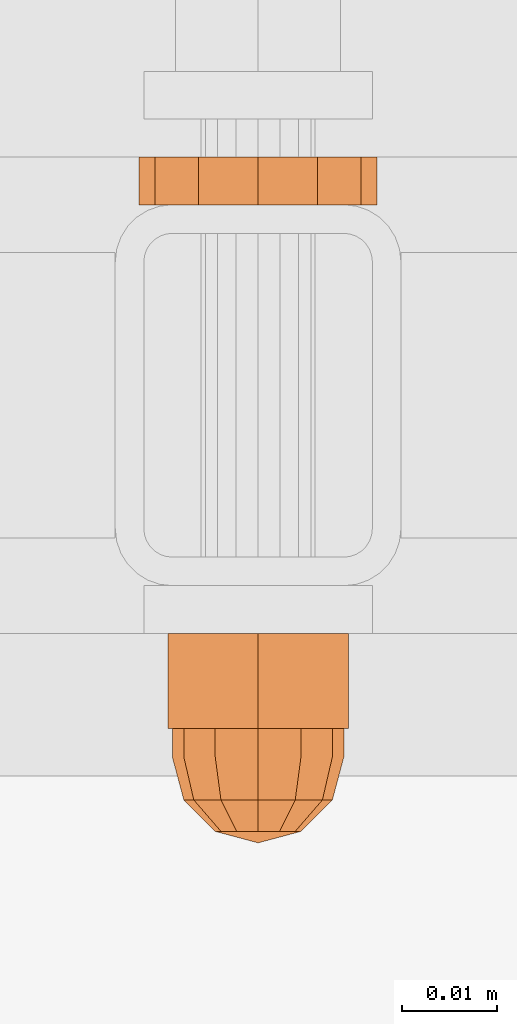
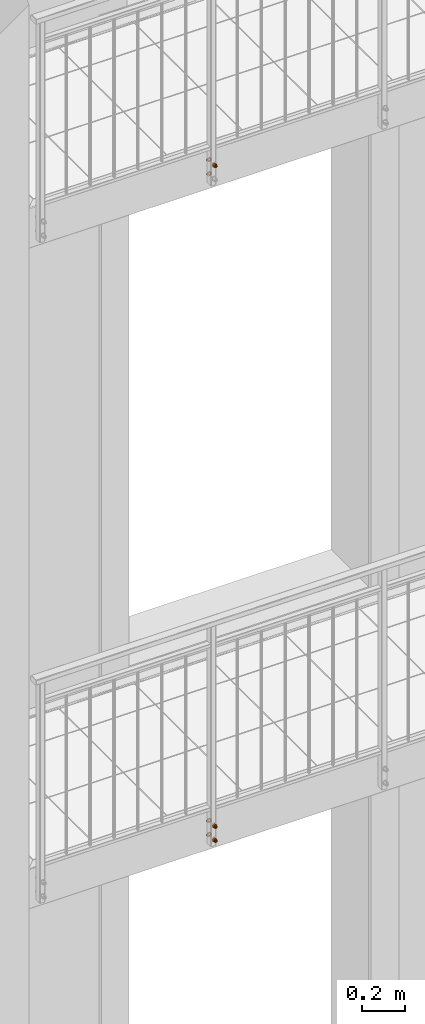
# One storey, part 118 of 162: 7 proxies.
"""IFC2X3 building model written with IfcOpenShell, lengths in millimetres."""

import ifcopenshell
import ifcopenshell.guid

model = None  # the IFC model being written
_history = None  # IfcOwnerHistory: only IFC2X3 demands one
_inside = {}  # id of a spatial element -> (the spatial element, [elements in it])
_under = {}  # id of a project, library or spatial element -> (it, [spatial elements below it])
_declared = {}  # id of a project -> (the project, [libraries it declares])
_typed = {}  # id of a type object -> (the type object, [elements of that type])
_made_of = {}  # id of a material, layer set ... -> (it, [elements and type objects made of it])


def new_model(schema):
    """Start an empty IFC model of exactly this schema.

    Asked for "IFC4X3", IfcOpenShell would pick the latest addendum, in which some entities
    have other attributes; the version numbers below select the first issue.
    IFC2X3 requires an IfcOwnerHistory on every rooted entity: one is made here for all.
    """
    global model, _history
    if schema == "IFC4X3":
        model = ifcopenshell.file(schema_version=(4, 3, 0, 0))
    else:
        model = ifcopenshell.file(schema=schema)
    _inside.clear()
    _under.clear()
    _declared.clear()
    _typed.clear()
    _made_of.clear()
    _history = None
    if model.schema == "IFC2X3":
        org = make("IfcOrganization", Name="unknown")
        user = make(
            "IfcPersonAndOrganization",
            ThePerson=make("IfcPerson", FamilyName="unknown"),
            TheOrganization=org,
        )
        app = make(
            "IfcApplication",
            ApplicationDeveloper=org,
            Version="unknown",
            ApplicationFullName="unknown",
            ApplicationIdentifier="unknown",
        )
        _history = make(
            "IfcOwnerHistory",
            OwningUser=user,
            OwningApplication=app,
            ChangeAction="ADDED",
            CreationDate=0,
        )
    return model


def make(cls, **values):
    """One entity of the class cls with the attributes given. An attribute that is None is left unset."""
    return model.create_entity(
        cls, **{name: value for name, value in values.items() if value is not None}
    )


def entity(cls, *values):
    """Any entity or typed value of the class cls, its attributes in the order of the schema. None: left unset."""
    e = model.create_entity(cls)
    for i, value in enumerate(values):
        if value is not None:
            e[i] = value
    return e


def rooted(cls, **values):
    """An entity with a GlobalId (a new one), such as an element, a storey or a relation."""
    return make(cls, GlobalId=ifcopenshell.guid.new(), OwnerHistory=_history, **values)


def si_unit(unit_type, name, prefix=None):
    """IfcSIUnit, for example si_unit("LENGTHUNIT", "METRE", prefix="MILLI")."""
    return make("IfcSIUnit", UnitType=unit_type, Prefix=prefix, Name=name)


def converted_unit(unit_type, name, factor, base, dimensions=None, offset=None):
    """IfcConversionBasedUnit, such as the inch: factor (a typed value) times the base unit."""
    return make(
        "IfcConversionBasedUnit"
        if offset is None
        else "IfcConversionBasedUnitWithOffset",
        ConversionOffset=offset,
        Dimensions=None
        if dimensions is None
        else entity("IfcDimensionalExponents", *dimensions),
        UnitType=unit_type,
        Name=name,
        ConversionFactor=make(
            "IfcMeasureWithUnit", ValueComponent=factor, UnitComponent=base
        ),
    )


def assignment(units):
    """IfcUnitAssignment: the units of a project."""
    return None if units is None else make("IfcUnitAssignment", Units=units)


def point(xyz):
    """IfcCartesianPoint."""
    return None if xyz is None else make("IfcCartesianPoint", Coordinates=xyz)


def direction(xyz):
    """IfcDirection."""
    return None if xyz is None else make("IfcDirection", DirectionRatios=xyz)


def frame(location, z_axis=None, x_axis=None):
    """IfcAxis2Placement3D, a coordinate frame: its origin and axes. An axis left out is left unset."""
    return make(
        "IfcAxis2Placement3D",
        Location=point(location),
        Axis=direction(z_axis),
        RefDirection=direction(x_axis),
    )


def origin_with_axes():
    """The frame at (0, 0, 0) with the z axis (0, 0, 1) and the x axis (1, 0, 0) written out."""
    return frame((0.0, 0.0, 0.0), z_axis=(0.0, 0.0, 1.0), x_axis=(1.0, 0.0, 0.0))


def place(relative_to, where):
    """IfcLocalPlacement: puts the frame where relative to a parent placement (None: the world)."""
    return make(
        "IfcLocalPlacement", PlacementRelTo=relative_to, RelativePlacement=where
    )


def context(
    kind, dimensions, precision=None, world=None, true_north=None, identifier=None
):
    """IfcGeometricRepresentationContext, for example the 3D "Model" context."""
    return make(
        "IfcGeometricRepresentationContext",
        ContextIdentifier=identifier,
        ContextType=kind,
        CoordinateSpaceDimension=dimensions,
        Precision=precision,
        WorldCoordinateSystem=world,
        TrueNorth=true_north,
    )


def project(units=None, contexts=None):
    """IfcProject with its units and contexts."""
    return rooted(
        "IfcProject",
        Name="project",
        RepresentationContexts=contexts,
        UnitsInContext=assignment(units),
    )


def spatial(cls, under=None, at=None, **own):
    """A site, building, storey or space (cls), placed at a placement, below another one or the project."""
    s = rooted(cls, ObjectPlacement=at, **own)
    if under is not None:
        _under.setdefault(under.id(), (under, []))[1].append(s)
    return s


def faces_of(points, faces, orient=None, outer=None):
    """IfcFace entities. A face is a list of loops; a loop is a list of indices into points, from 0.

    orient and outer hold one flag for each loop. By default every Orientation is true, the
    first loop of a face is its IfcFaceOuterBound and the others are IfcFaceBound.
    """
    made = []
    for i, loops in enumerate(faces):
        bounds = []
        for j, loop in enumerate(loops):
            is_outer = j == 0 if outer is None else outer[i][j]
            bounds.append(
                make(
                    "IfcFaceOuterBound" if is_outer else "IfcFaceBound",
                    Bound=make("IfcPolyLoop", Polygon=[points[k] for k in loop]),
                    Orientation=True if orient is None else orient[i][j],
                )
            )
        made.append(make("IfcFace", Bounds=bounds))
    return made


def faceted_brep(points, faces, orient=None, outer=None, voids=None):
    """IfcFacetedBrep: a solid bounded by flat faces; with voids (closed shells), ...WithVoids."""
    shared = [point(p) for p in points]
    hull = make("IfcClosedShell", CfsFaces=faces_of(shared, faces, orient, outer))
    if voids is None:
        return make("IfcFacetedBrep", Outer=hull)
    return make(
        "IfcFacetedBrepWithVoids",
        Outer=hull,
        Voids=[
            make(cls, CfsFaces=faces_of(shared, fs, o, b)) for cls, fs, o, b in voids
        ],
    )


def shape(context_of_items, identifier, shape_type, items):
    """IfcShapeRepresentation: the items that make up one representation, for example the "Body"."""
    return make(
        "IfcShapeRepresentation",
        ContextOfItems=context_of_items,
        RepresentationIdentifier=identifier,
        RepresentationType=shape_type,
        Items=items,
    )


def material(Name=None, Category=None):
    """IfcMaterial."""
    return make("IfcMaterial", Name=Name, Category=Category)


def made_of(thing, what):
    """Note that an element or type object is made of a material, layer set ...; save() writes the relation."""
    if what is not None:
        _made_of.setdefault(what.id(), (what, []))[1].append(thing)
    return thing


def element(
    cls,
    number,
    at=None,
    inside=None,
    cuts=None,
    type_object=None,
    material=None,
    context=None,
    identifier="Body",
    shape_type=None,
    held_by="IfcProductDefinitionShape",
    body=None,
    shapes=None,
    **own,
):
    """One element of the class cls, such as IfcWall. Its Tag is "e" and its number.

    at: its placement. inside: the storey or other place that contains it. cuts: it is an
    opening in that element (IfcRelVoidsElement). A single representation is given by context,
    identifier, shape_type and body (its items); several are given by shapes. held_by: the class
    of the entity that holds the representations. save() writes the other relations.
    """
    e = rooted(cls, Tag="e%d" % number, ObjectPlacement=at, **own)
    if body is not None:
        shapes = [shape(context, identifier, shape_type, body)]
    if shapes is not None:
        e.Representation = make(held_by, Representations=shapes)
    if inside is not None:
        _inside.setdefault(inside.id(), (inside, []))[1].append(e)
    if cuts is not None:
        rooted(
            "IfcRelVoidsElement", RelatingBuildingElement=cuts, RelatedOpeningElement=e
        )
    if type_object is not None:
        _typed.setdefault(type_object.id(), (type_object, []))[1].append(e)
    return made_of(e, material)


def aggregate(whole, parts):
    """IfcRelAggregates: a whole, such as a stair, and the parts it consists of."""
    return rooted("IfcRelAggregates", RelatingObject=whole, RelatedObjects=parts)


def save(model, path):
    """Write the relations noted so far, then the file.

    IfcRelAggregates (storeys below a building ...), IfcRelContainedInSpatialStructure (elements
    in a storey), IfcRelDefinesByType, IfcRelAssociatesMaterial and IfcRelDeclares: one each for
    every whole, place, type object, material and project.
    """
    for whole, parts in _under.values():
        aggregate(whole, parts)
    for where, things in _inside.values():
        rooted(
            "IfcRelContainedInSpatialStructure",
            RelatedElements=things,
            RelatingStructure=where,
        )
    for kind, things in _typed.values():
        rooted("IfcRelDefinesByType", RelatedObjects=things, RelatingType=kind)
    for what, things in _made_of.values():
        rooted("IfcRelAssociatesMaterial", RelatedObjects=things, RelatingMaterial=what)
    for by, libraries in _declared.values():
        rooted("IfcRelDeclares", RelatingContext=by, RelatedDefinitions=libraries)
    model.write(path)


model = new_model("IFC2X3")

# Units and contexts
model_context = context("Model", 3, precision=1e-09, world=origin_with_axes())
ifc_project = project(units=[si_unit("LENGTHUNIT", "METRE", prefix="MILLI"), si_unit("AREAUNIT", "SQUARE_METRE"), si_unit("VOLUMEUNIT", "CUBIC_METRE"), converted_unit("PLANEANGLEUNIT", "DEGREE", entity("IfcPlaneAngleMeasure", 0.01745329), si_unit("PLANEANGLEUNIT", "RADIAN"), dimensions=[0, 0, 0, 0, 0, 0, 0])], contexts=[model_context])

# Site, building, storey
site_placement = place(None, origin_with_axes())
site = spatial("IfcSite", under=ifc_project, at=site_placement, Name="Hermannstra?e 1a, 60318 Frankfurt", CompositionType="ELEMENT")
building_placement = place(site_placement, origin_with_axes())
building = spatial("IfcBuilding", under=site, at=building_placement, Name="Struktur 1", CompositionType="ELEMENT")
storey_placement = place(building_placement, origin_with_axes())
storey = spatial("IfcBuildingStorey", under=building, at=storey_placement, Name="Default Storey", CompositionType="ELEMENT", Elevation=0.0)

# Proxies
ifc_material = material(Name="Kein")
proxy_1_placement = place(None, origin_with_axes())
element("IfcBuildingElementProxy", 1, at=proxy_1_placement, inside=storey, material=ifc_material, ObjectType="-", context=model_context, shape_type="Brep", body=[
    faceted_brep([(3512.484047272, 1535.609373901, 11333.749), (3517.05936482, 1535.609373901, 11329.173682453), (3523.30936482, 1535.609373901, 11327.499), (3529.55936482, 1535.609373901, 11329.173682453), (3534.134682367, 1535.609373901, 11333.749), (3535.80936482, 1535.609373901, 11339.999), (3534.134682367, 1535.609373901, 11346.249), (3529.55936482, 1535.609373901, 11350.824317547), (3523.30936482, 1535.609373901, 11352.499), (3517.05936482, 1535.609373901, 11350.824317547), (3512.484047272, 1535.609373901, 11346.249), (3510.80936482, 1535.609373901, 11339.999), (3523.30936482, 1535.609373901, 11333.999), (3520.30936482, 1535.609373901, 11334.802847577), (3518.113212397, 1535.609373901, 11336.999), (3517.30936482, 1535.609373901, 11339.999), (3518.113212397, 1535.609373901, 11342.999), (3520.30936482, 1535.609373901, 11345.195152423), (3523.30936482, 1535.609373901, 11345.999), (3526.30936482, 1535.609373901, 11345.195152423), (3528.505517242, 1535.609373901, 11342.999), (3529.30936482, 1535.609373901, 11339.999), (3528.505517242, 1535.609373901, 11336.999), (3526.30936482, 1535.609373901, 11334.802847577), (3512.484047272, 1540.609373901, 11333.749), (3517.05936482, 1540.609373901, 11329.173682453), (3510.80936482, 1540.609373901, 11339.999), (3512.484047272, 1540.609373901, 11346.249), (3517.05936482, 1540.609373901, 11350.824317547), (3523.30936482, 1540.609373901, 11352.499), (3529.55936482, 1540.609373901, 11350.824317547), (3534.134682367, 1540.609373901, 11346.249), (3535.80936482, 1540.609373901, 11339.999), (3534.134682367, 1540.609373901, 11333.749), (3529.55936482, 1540.609373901, 11329.173682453), (3523.30936482, 1540.609373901, 11327.499), (3518.113212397, 1540.609373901, 11342.999), (3517.30936482, 1540.609373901, 11339.999), (3518.113212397, 1540.609373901, 11336.999), (3520.30936482, 1540.609373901, 11334.802847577), (3523.30936482, 1540.609373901, 11333.999), (3526.30936482, 1540.609373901, 11334.802847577), (3528.505517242, 1540.609373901, 11336.999), (3529.30936482, 1540.609373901, 11339.999), (3528.505517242, 1540.609373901, 11342.999), (3526.30936482, 1540.609373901, 11345.195152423), (3523.30936482, 1540.609373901, 11345.999), (3520.30936482, 1540.609373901, 11345.195152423)], [[[0, 1, 2, 3, 4, 5, 6, 7, 8, 9, 10, 11], [12, 13, 14, 15, 16, 17, 18, 19, 20, 21, 22, 23]], [[0, 24, 25, 1]], [[24, 26, 27, 28, 29, 30, 31, 32, 33, 34, 35, 25], [36, 37, 38, 39, 40, 41, 42, 43, 44, 45, 46, 47]], [[38, 14, 13, 39]], [[24, 0, 11, 26]], [[14, 38, 37, 15]], [[39, 13, 12, 40]], [[1, 25, 35, 2]], [[26, 11, 10, 27]], [[15, 37, 36, 16]], [[40, 12, 23, 41]], [[2, 35, 34, 3]], [[27, 10, 9, 28]], [[16, 36, 47, 17]], [[22, 42, 41, 23]], [[3, 34, 33, 4]], [[42, 22, 21, 43]], [[28, 9, 8, 29]], [[17, 47, 46, 18]], [[20, 44, 43, 21]], [[4, 33, 32, 5]], [[45, 19, 18, 46]], [[44, 20, 19, 45]], [[29, 8, 7, 30]], [[5, 32, 31, 6]], [[30, 7, 6, 31]]]),
])
proxy_2_placement = place(None, origin_with_axes())
element("IfcBuildingElementProxy", 2, at=proxy_2_placement, inside=storey, material=ifc_material, ObjectType="-", context=model_context, shape_type="Brep", body=[
    faceted_brep([(3512.484047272, 1535.609373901, 11413.749), (3517.05936482, 1535.609373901, 11409.173682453), (3523.30936482, 1535.609373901, 11407.499), (3529.55936482, 1535.609373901, 11409.173682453), (3534.134682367, 1535.609373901, 11413.749), (3535.80936482, 1535.609373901, 11419.999), (3534.134682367, 1535.609373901, 11426.249), (3529.55936482, 1535.609373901, 11430.824317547), (3523.30936482, 1535.609373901, 11432.499), (3517.05936482, 1535.609373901, 11430.824317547), (3512.484047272, 1535.609373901, 11426.249), (3510.80936482, 1535.609373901, 11419.999), (3523.30936482, 1535.609373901, 11413.999), (3520.30936482, 1535.609373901, 11414.802847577), (3518.113212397, 1535.609373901, 11416.999), (3517.30936482, 1535.609373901, 11419.999), (3518.113212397, 1535.609373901, 11422.999), (3520.30936482, 1535.609373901, 11425.195152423), (3523.30936482, 1535.609373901, 11425.999), (3526.30936482, 1535.609373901, 11425.195152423), (3528.505517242, 1535.609373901, 11422.999), (3529.30936482, 1535.609373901, 11419.999), (3528.505517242, 1535.609373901, 11416.999), (3526.30936482, 1535.609373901, 11414.802847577), (3512.484047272, 1540.609373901, 11413.749), (3517.05936482, 1540.609373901, 11409.173682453), (3510.80936482, 1540.609373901, 11419.999), (3512.484047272, 1540.609373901, 11426.249), (3517.05936482, 1540.609373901, 11430.824317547), (3523.30936482, 1540.609373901, 11432.499), (3529.55936482, 1540.609373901, 11430.824317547), (3534.134682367, 1540.609373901, 11426.249), (3535.80936482, 1540.609373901, 11419.999), (3534.134682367, 1540.609373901, 11413.749), (3529.55936482, 1540.609373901, 11409.173682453), (3523.30936482, 1540.609373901, 11407.499), (3518.113212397, 1540.609373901, 11422.999), (3517.30936482, 1540.609373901, 11419.999), (3518.113212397, 1540.609373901, 11416.999), (3520.30936482, 1540.609373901, 11414.802847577), (3523.30936482, 1540.609373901, 11413.999), (3526.30936482, 1540.609373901, 11414.802847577), (3528.505517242, 1540.609373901, 11416.999), (3529.30936482, 1540.609373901, 11419.999), (3528.505517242, 1540.609373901, 11422.999), (3526.30936482, 1540.609373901, 11425.195152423), (3523.30936482, 1540.609373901, 11425.999), (3520.30936482, 1540.609373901, 11425.195152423)], [[[0, 1, 2, 3, 4, 5, 6, 7, 8, 9, 10, 11], [12, 13, 14, 15, 16, 17, 18, 19, 20, 21, 22, 23]], [[0, 24, 25, 1]], [[24, 26, 27, 28, 29, 30, 31, 32, 33, 34, 35, 25], [36, 37, 38, 39, 40, 41, 42, 43, 44, 45, 46, 47]], [[38, 14, 13, 39]], [[24, 0, 11, 26]], [[14, 38, 37, 15]], [[39, 13, 12, 40]], [[1, 25, 35, 2]], [[26, 11, 10, 27]], [[15, 37, 36, 16]], [[40, 12, 23, 41]], [[2, 35, 34, 3]], [[27, 10, 9, 28]], [[16, 36, 47, 17]], [[22, 42, 41, 23]], [[3, 34, 33, 4]], [[42, 22, 21, 43]], [[28, 9, 8, 29]], [[17, 47, 46, 18]], [[20, 44, 43, 21]], [[4, 33, 32, 5]], [[45, 19, 18, 46]], [[44, 20, 19, 45]], [[29, 8, 7, 30]], [[5, 32, 31, 6]], [[30, 7, 6, 31]]]),
])
proxy_3_placement = place(None, origin_with_axes())
element("IfcBuildingElementProxy", 3, at=proxy_3_placement, inside=storey, material=ifc_material, ObjectType="-", context=model_context, shape_type="Brep", body=[
    faceted_brep([(3517.30936482, 1490.609373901, 11419.999), (3517.30936482, 1480.609373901, 11419.999), (3518.113212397, 1480.609373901, 11416.999), (3518.113212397, 1490.609373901, 11416.999), (3520.30936482, 1480.609373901, 11414.802847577), (3520.30936482, 1490.609373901, 11414.802847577), (3518.113212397, 1490.609373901, 11422.999), (3518.113212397, 1480.609373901, 11422.999), (3513.829495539, 1490.609373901, 11425.472205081), (3523.30936482, 1490.609373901, 11430.945410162), (3532.7892341, 1490.609373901, 11425.472205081), (3532.7892341, 1490.609373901, 11414.525794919), (3523.30936482, 1490.609373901, 11409.052589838), (3513.829495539, 1490.609373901, 11414.525794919), (3520.30936482, 1490.609373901, 11425.195152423), (3523.30936482, 1490.609373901, 11413.999), (3526.30936482, 1490.609373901, 11414.802847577), (3528.505517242, 1490.609373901, 11416.999), (3529.30936482, 1490.609373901, 11419.999), (3528.505517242, 1490.609373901, 11422.999), (3526.30936482, 1490.609373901, 11425.195152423), (3523.30936482, 1490.609373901, 11425.999), (3523.30936482, 1480.609373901, 11430.945410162), (3513.829495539, 1480.609373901, 11425.472205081), (3513.829495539, 1480.609373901, 11414.525794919), (3523.30936482, 1480.609373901, 11409.052589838), (3532.7892341, 1480.609373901, 11414.525794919), (3532.7892341, 1480.609373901, 11425.472205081), (3520.30936482, 1480.609373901, 11425.195152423), (3523.30936482, 1480.609373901, 11425.999), (3526.30936482, 1480.609373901, 11425.195152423), (3528.505517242, 1480.609373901, 11422.999), (3529.30936482, 1480.609373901, 11419.999), (3528.505517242, 1480.609373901, 11416.999), (3526.30936482, 1480.609373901, 11414.802847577), (3523.30936482, 1480.609373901, 11413.999)], [[[0, 1, 2, 3]], [[3, 2, 4, 5]], [[1, 0, 6, 7]], [[8, 9, 10, 11, 12, 13], [14, 6, 0, 3, 5, 15, 16, 17, 18, 19, 20, 21]], [[22, 23, 24, 25, 26, 27], [1, 7, 28, 29, 30, 31, 32, 33, 34, 35, 4, 2]], [[7, 6, 14, 28]], [[24, 23, 8, 13]], [[5, 4, 35, 15]], [[13, 12, 25, 24]], [[28, 14, 21, 29]], [[23, 22, 9, 8]], [[15, 35, 34, 16]], [[12, 11, 26, 25]], [[29, 21, 20, 30]], [[22, 27, 10, 9]], [[16, 34, 33, 17]], [[27, 26, 11, 10]], [[30, 20, 19, 31]], [[17, 33, 32, 18]], [[31, 19, 18, 32]]]),
    faceted_brep([(3523.30936482, 1480.609373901, 11428.999), (3523.30936482, 1477.609373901, 11428.999), (3527.80936482, 1477.609373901, 11427.793228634), (3527.80936482, 1480.609373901, 11427.793228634), (3518.80936482, 1480.609373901, 11427.793228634), (3518.80936482, 1477.609373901, 11427.793228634), (3515.515136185, 1477.609373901, 11415.499), (3518.80936482, 1477.609373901, 11412.204771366), (3523.30936482, 1477.609373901, 11410.999), (3527.80936482, 1477.609373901, 11412.204771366), (3531.103593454, 1477.609373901, 11415.499), (3532.30936482, 1477.609373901, 11419.999), (3531.103593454, 1477.609373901, 11424.499), (3515.515136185, 1477.609373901, 11424.499), (3514.30936482, 1477.609373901, 11419.999), (3531.103593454, 1480.609373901, 11415.499), (3527.80936482, 1480.609373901, 11412.204771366), (3523.30936482, 1480.609373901, 11410.999), (3518.80936482, 1480.609373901, 11412.204771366), (3515.515136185, 1480.609373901, 11415.499), (3514.30936482, 1480.609373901, 11419.999), (3515.515136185, 1480.609373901, 11424.499), (3531.103593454, 1480.609373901, 11424.499), (3532.30936482, 1480.609373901, 11419.999)], [[[0, 1, 2, 3]], [[1, 0, 4, 5]], [[6, 7, 8, 9, 10, 11, 12, 2, 1, 5, 13, 14]], [[15, 16, 17, 18, 19, 20, 21, 4, 0, 3, 22, 23]], [[3, 2, 12, 22]], [[5, 4, 21, 13]], [[22, 12, 11, 23]], [[13, 21, 20, 14]], [[7, 18, 17, 8]], [[19, 6, 14, 20]], [[18, 7, 6, 19]], [[23, 11, 10, 15]], [[8, 17, 16, 9]], [[15, 10, 9, 16]]]),
    faceted_brep([(3515.515136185, 1477.609373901, 11424.499), (3516.55936482, 1473.109373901, 11423.896114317), (3519.412250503, 1473.109373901, 11426.749), (3518.80936482, 1477.609373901, 11427.793228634), (3531.103593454, 1477.609373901, 11415.499), (3527.80936482, 1477.609373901, 11412.204771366), (3523.30936482, 1477.609373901, 11410.999), (3518.80936482, 1477.609373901, 11412.204771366), (3515.515136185, 1477.609373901, 11415.499), (3514.30936482, 1477.609373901, 11419.999), (3523.30936482, 1477.609373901, 11428.999), (3527.80936482, 1477.609373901, 11427.793228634), (3531.103593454, 1477.609373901, 11424.499), (3532.30936482, 1477.609373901, 11419.999), (3523.30936482, 1473.109373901, 11427.793228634), (3515.515136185, 1473.109373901, 11419.999), (3518.80936482, 1469.815145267, 11419.999), (3519.412250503, 1469.815145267, 11422.249), (3527.206479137, 1473.109373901, 11426.749), (3521.05936482, 1469.815145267, 11423.896114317), (3516.55936482, 1473.109373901, 11416.101885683), (3519.412250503, 1469.815145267, 11417.749), (3523.30936482, 1469.815145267, 11424.499), (3523.30936482, 1468.609373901, 11419.999), (3519.412250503, 1473.109373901, 11413.249), (3521.05936482, 1469.815145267, 11416.101885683), (3523.30936482, 1473.109373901, 11412.204771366), (3530.05936482, 1473.109373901, 11423.896114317), (3525.55936482, 1469.815145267, 11423.896114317), (3523.30936482, 1469.815145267, 11415.499), (3527.206479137, 1473.109373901, 11413.249), (3525.55936482, 1469.815145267, 11416.101885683), (3531.103593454, 1473.109373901, 11419.999), (3527.206479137, 1469.815145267, 11422.249), (3530.05936482, 1473.109373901, 11416.101885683), (3527.206479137, 1469.815145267, 11417.749), (3527.80936482, 1469.815145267, 11419.999)], [[[0, 1, 2, 3]], [[4, 5, 6, 7, 8, 9, 0, 3, 10, 11, 12, 13]], [[3, 2, 14, 10]], [[15, 16, 17, 1]], [[1, 0, 9, 15]], [[10, 14, 18, 11]], [[1, 17, 19, 2]], [[16, 15, 20, 21]], [[2, 19, 22, 14]], [[23, 17, 16]], [[24, 25, 21, 20]], [[23, 16, 21]], [[24, 7, 6, 26]], [[20, 8, 7, 24]], [[15, 9, 8, 20]], [[11, 18, 27, 12]], [[14, 22, 28, 18]], [[23, 19, 17]], [[26, 29, 25, 24]], [[23, 21, 25]], [[23, 22, 19]], [[26, 6, 5, 30]], [[29, 26, 30, 31]], [[23, 25, 29]], [[12, 27, 32, 13]], [[18, 28, 33, 27]], [[23, 28, 22]], [[23, 29, 31]], [[23, 33, 28]], [[30, 5, 4, 34]], [[31, 30, 34, 35]], [[23, 31, 35]], [[13, 32, 34, 4]], [[27, 33, 36, 32]], [[23, 36, 33]], [[23, 35, 36]], [[35, 34, 32, 36]]]),
])
proxy_4_placement = place(None, origin_with_axes())
element("IfcBuildingElementProxy", 4, at=proxy_4_placement, inside=storey, material=ifc_material, ObjectType="-", context=model_context, shape_type="Brep", body=[
    faceted_brep([(3517.30936482, 1490.609373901, 11339.999), (3517.30936482, 1480.609373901, 11339.999), (3518.113212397, 1480.609373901, 11336.999), (3518.113212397, 1490.609373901, 11336.999), (3520.30936482, 1480.609373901, 11334.802847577), (3520.30936482, 1490.609373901, 11334.802847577), (3518.113212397, 1490.609373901, 11342.999), (3518.113212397, 1480.609373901, 11342.999), (3513.829495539, 1490.609373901, 11345.472205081), (3523.30936482, 1490.609373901, 11350.945410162), (3532.7892341, 1490.609373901, 11345.472205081), (3532.7892341, 1490.609373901, 11334.525794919), (3523.30936482, 1490.609373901, 11329.052589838), (3513.829495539, 1490.609373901, 11334.525794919), (3520.30936482, 1490.609373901, 11345.195152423), (3523.30936482, 1490.609373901, 11333.999), (3526.30936482, 1490.609373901, 11334.802847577), (3528.505517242, 1490.609373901, 11336.999), (3529.30936482, 1490.609373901, 11339.999), (3528.505517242, 1490.609373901, 11342.999), (3526.30936482, 1490.609373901, 11345.195152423), (3523.30936482, 1490.609373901, 11345.999), (3523.30936482, 1480.609373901, 11350.945410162), (3513.829495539, 1480.609373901, 11345.472205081), (3513.829495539, 1480.609373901, 11334.525794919), (3523.30936482, 1480.609373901, 11329.052589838), (3532.7892341, 1480.609373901, 11334.525794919), (3532.7892341, 1480.609373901, 11345.472205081), (3520.30936482, 1480.609373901, 11345.195152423), (3523.30936482, 1480.609373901, 11345.999), (3526.30936482, 1480.609373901, 11345.195152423), (3528.505517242, 1480.609373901, 11342.999), (3529.30936482, 1480.609373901, 11339.999), (3528.505517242, 1480.609373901, 11336.999), (3526.30936482, 1480.609373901, 11334.802847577), (3523.30936482, 1480.609373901, 11333.999)], [[[0, 1, 2, 3]], [[3, 2, 4, 5]], [[1, 0, 6, 7]], [[8, 9, 10, 11, 12, 13], [14, 6, 0, 3, 5, 15, 16, 17, 18, 19, 20, 21]], [[22, 23, 24, 25, 26, 27], [1, 7, 28, 29, 30, 31, 32, 33, 34, 35, 4, 2]], [[7, 6, 14, 28]], [[24, 23, 8, 13]], [[5, 4, 35, 15]], [[13, 12, 25, 24]], [[28, 14, 21, 29]], [[23, 22, 9, 8]], [[15, 35, 34, 16]], [[12, 11, 26, 25]], [[29, 21, 20, 30]], [[22, 27, 10, 9]], [[16, 34, 33, 17]], [[27, 26, 11, 10]], [[30, 20, 19, 31]], [[17, 33, 32, 18]], [[31, 19, 18, 32]]]),
    faceted_brep([(3523.30936482, 1480.609373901, 11348.999), (3523.30936482, 1477.609373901, 11348.999), (3527.80936482, 1477.609373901, 11347.793228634), (3527.80936482, 1480.609373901, 11347.793228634), (3518.80936482, 1480.609373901, 11347.793228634), (3518.80936482, 1477.609373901, 11347.793228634), (3515.515136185, 1477.609373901, 11335.499), (3518.80936482, 1477.609373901, 11332.204771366), (3523.30936482, 1477.609373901, 11330.999), (3527.80936482, 1477.609373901, 11332.204771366), (3531.103593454, 1477.609373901, 11335.499), (3532.30936482, 1477.609373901, 11339.999), (3531.103593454, 1477.609373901, 11344.499), (3515.515136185, 1477.609373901, 11344.499), (3514.30936482, 1477.609373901, 11339.999), (3531.103593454, 1480.609373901, 11335.499), (3527.80936482, 1480.609373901, 11332.204771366), (3523.30936482, 1480.609373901, 11330.999), (3518.80936482, 1480.609373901, 11332.204771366), (3515.515136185, 1480.609373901, 11335.499), (3514.30936482, 1480.609373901, 11339.999), (3515.515136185, 1480.609373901, 11344.499), (3531.103593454, 1480.609373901, 11344.499), (3532.30936482, 1480.609373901, 11339.999)], [[[0, 1, 2, 3]], [[1, 0, 4, 5]], [[6, 7, 8, 9, 10, 11, 12, 2, 1, 5, 13, 14]], [[15, 16, 17, 18, 19, 20, 21, 4, 0, 3, 22, 23]], [[3, 2, 12, 22]], [[5, 4, 21, 13]], [[22, 12, 11, 23]], [[13, 21, 20, 14]], [[7, 18, 17, 8]], [[19, 6, 14, 20]], [[18, 7, 6, 19]], [[23, 11, 10, 15]], [[8, 17, 16, 9]], [[15, 10, 9, 16]]]),
    faceted_brep([(3515.515136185, 1477.609373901, 11344.499), (3516.55936482, 1473.109373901, 11343.896114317), (3519.412250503, 1473.109373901, 11346.749), (3518.80936482, 1477.609373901, 11347.793228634), (3531.103593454, 1477.609373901, 11335.499), (3527.80936482, 1477.609373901, 11332.204771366), (3523.30936482, 1477.609373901, 11330.999), (3518.80936482, 1477.609373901, 11332.204771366), (3515.515136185, 1477.609373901, 11335.499), (3514.30936482, 1477.609373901, 11339.999), (3523.30936482, 1477.609373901, 11348.999), (3527.80936482, 1477.609373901, 11347.793228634), (3531.103593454, 1477.609373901, 11344.499), (3532.30936482, 1477.609373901, 11339.999), (3523.30936482, 1473.109373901, 11347.793228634), (3515.515136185, 1473.109373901, 11339.999), (3518.80936482, 1469.815145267, 11339.999), (3519.412250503, 1469.815145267, 11342.249), (3527.206479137, 1473.109373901, 11346.749), (3521.05936482, 1469.815145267, 11343.896114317), (3516.55936482, 1473.109373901, 11336.101885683), (3519.412250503, 1469.815145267, 11337.749), (3523.30936482, 1469.815145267, 11344.499), (3523.30936482, 1468.609373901, 11339.999), (3519.412250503, 1473.109373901, 11333.249), (3521.05936482, 1469.815145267, 11336.101885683), (3523.30936482, 1473.109373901, 11332.204771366), (3530.05936482, 1473.109373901, 11343.896114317), (3525.55936482, 1469.815145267, 11343.896114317), (3523.30936482, 1469.815145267, 11335.499), (3527.206479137, 1473.109373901, 11333.249), (3525.55936482, 1469.815145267, 11336.101885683), (3531.103593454, 1473.109373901, 11339.999), (3527.206479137, 1469.815145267, 11342.249), (3530.05936482, 1473.109373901, 11336.101885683), (3527.206479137, 1469.815145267, 11337.749), (3527.80936482, 1469.815145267, 11339.999)], [[[0, 1, 2, 3]], [[4, 5, 6, 7, 8, 9, 0, 3, 10, 11, 12, 13]], [[3, 2, 14, 10]], [[15, 16, 17, 1]], [[1, 0, 9, 15]], [[10, 14, 18, 11]], [[1, 17, 19, 2]], [[16, 15, 20, 21]], [[2, 19, 22, 14]], [[23, 17, 16]], [[24, 25, 21, 20]], [[23, 16, 21]], [[24, 7, 6, 26]], [[20, 8, 7, 24]], [[15, 9, 8, 20]], [[11, 18, 27, 12]], [[14, 22, 28, 18]], [[23, 19, 17]], [[26, 29, 25, 24]], [[23, 21, 25]], [[23, 22, 19]], [[26, 6, 5, 30]], [[29, 26, 30, 31]], [[23, 25, 29]], [[12, 27, 32, 13]], [[18, 28, 33, 27]], [[23, 28, 22]], [[23, 29, 31]], [[23, 33, 28]], [[30, 5, 4, 34]], [[31, 30, 34, 35]], [[23, 31, 35]], [[13, 32, 34, 4]], [[27, 33, 36, 32]], [[23, 36, 33]], [[23, 35, 36]], [[35, 34, 32, 36]]]),
])
proxy_5_placement = place(None, origin_with_axes())
element("IfcBuildingElementProxy", 5, at=proxy_5_placement, inside=storey, material=ifc_material, ObjectType="-", context=model_context, shape_type="Brep", body=[
    faceted_brep([(3512.484047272, 1535.609373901, 15090.749), (3517.05936482, 1535.609373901, 15086.173682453), (3523.30936482, 1535.609373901, 15084.499), (3529.55936482, 1535.609373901, 15086.173682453), (3534.134682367, 1535.609373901, 15090.749), (3535.80936482, 1535.609373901, 15096.999), (3534.134682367, 1535.609373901, 15103.249), (3529.55936482, 1535.609373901, 15107.824317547), (3523.30936482, 1535.609373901, 15109.499), (3517.05936482, 1535.609373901, 15107.824317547), (3512.484047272, 1535.609373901, 15103.249), (3510.80936482, 1535.609373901, 15096.999), (3523.30936482, 1535.609373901, 15090.999), (3520.30936482, 1535.609373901, 15091.802847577), (3518.113212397, 1535.609373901, 15093.999), (3517.30936482, 1535.609373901, 15096.999), (3518.113212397, 1535.609373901, 15099.999), (3520.30936482, 1535.609373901, 15102.195152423), (3523.30936482, 1535.609373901, 15102.999), (3526.30936482, 1535.609373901, 15102.195152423), (3528.505517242, 1535.609373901, 15099.999), (3529.30936482, 1535.609373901, 15096.999), (3528.505517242, 1535.609373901, 15093.999), (3526.30936482, 1535.609373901, 15091.802847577), (3512.484047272, 1540.609373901, 15090.749), (3517.05936482, 1540.609373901, 15086.173682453), (3510.80936482, 1540.609373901, 15096.999), (3512.484047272, 1540.609373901, 15103.249), (3517.05936482, 1540.609373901, 15107.824317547), (3523.30936482, 1540.609373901, 15109.499), (3529.55936482, 1540.609373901, 15107.824317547), (3534.134682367, 1540.609373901, 15103.249), (3535.80936482, 1540.609373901, 15096.999), (3534.134682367, 1540.609373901, 15090.749), (3529.55936482, 1540.609373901, 15086.173682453), (3523.30936482, 1540.609373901, 15084.499), (3518.113212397, 1540.609373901, 15099.999), (3517.30936482, 1540.609373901, 15096.999), (3518.113212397, 1540.609373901, 15093.999), (3520.30936482, 1540.609373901, 15091.802847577), (3523.30936482, 1540.609373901, 15090.999), (3526.30936482, 1540.609373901, 15091.802847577), (3528.505517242, 1540.609373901, 15093.999), (3529.30936482, 1540.609373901, 15096.999), (3528.505517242, 1540.609373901, 15099.999), (3526.30936482, 1540.609373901, 15102.195152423), (3523.30936482, 1540.609373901, 15102.999), (3520.30936482, 1540.609373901, 15102.195152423)], [[[0, 1, 2, 3, 4, 5, 6, 7, 8, 9, 10, 11], [12, 13, 14, 15, 16, 17, 18, 19, 20, 21, 22, 23]], [[0, 24, 25, 1]], [[24, 26, 27, 28, 29, 30, 31, 32, 33, 34, 35, 25], [36, 37, 38, 39, 40, 41, 42, 43, 44, 45, 46, 47]], [[38, 14, 13, 39]], [[24, 0, 11, 26]], [[14, 38, 37, 15]], [[39, 13, 12, 40]], [[1, 25, 35, 2]], [[26, 11, 10, 27]], [[15, 37, 36, 16]], [[40, 12, 23, 41]], [[2, 35, 34, 3]], [[27, 10, 9, 28]], [[16, 36, 47, 17]], [[22, 42, 41, 23]], [[3, 34, 33, 4]], [[42, 22, 21, 43]], [[28, 9, 8, 29]], [[17, 47, 46, 18]], [[20, 44, 43, 21]], [[4, 33, 32, 5]], [[45, 19, 18, 46]], [[44, 20, 19, 45]], [[29, 8, 7, 30]], [[5, 32, 31, 6]], [[30, 7, 6, 31]]]),
])
proxy_6_placement = place(None, origin_with_axes())
element("IfcBuildingElementProxy", 6, at=proxy_6_placement, inside=storey, material=ifc_material, ObjectType="-", context=model_context, shape_type="Brep", body=[
    faceted_brep([(3512.484047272, 1535.609373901, 15170.749), (3517.05936482, 1535.609373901, 15166.173682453), (3523.30936482, 1535.609373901, 15164.499), (3529.55936482, 1535.609373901, 15166.173682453), (3534.134682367, 1535.609373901, 15170.749), (3535.80936482, 1535.609373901, 15176.999), (3534.134682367, 1535.609373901, 15183.249), (3529.55936482, 1535.609373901, 15187.824317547), (3523.30936482, 1535.609373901, 15189.499), (3517.05936482, 1535.609373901, 15187.824317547), (3512.484047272, 1535.609373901, 15183.249), (3510.80936482, 1535.609373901, 15176.999), (3523.30936482, 1535.609373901, 15170.999), (3520.30936482, 1535.609373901, 15171.802847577), (3518.113212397, 1535.609373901, 15173.999), (3517.30936482, 1535.609373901, 15176.999), (3518.113212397, 1535.609373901, 15179.999), (3520.30936482, 1535.609373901, 15182.195152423), (3523.30936482, 1535.609373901, 15182.999), (3526.30936482, 1535.609373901, 15182.195152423), (3528.505517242, 1535.609373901, 15179.999), (3529.30936482, 1535.609373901, 15176.999), (3528.505517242, 1535.609373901, 15173.999), (3526.30936482, 1535.609373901, 15171.802847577), (3512.484047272, 1540.609373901, 15170.749), (3517.05936482, 1540.609373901, 15166.173682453), (3510.80936482, 1540.609373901, 15176.999), (3512.484047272, 1540.609373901, 15183.249), (3517.05936482, 1540.609373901, 15187.824317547), (3523.30936482, 1540.609373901, 15189.499), (3529.55936482, 1540.609373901, 15187.824317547), (3534.134682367, 1540.609373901, 15183.249), (3535.80936482, 1540.609373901, 15176.999), (3534.134682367, 1540.609373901, 15170.749), (3529.55936482, 1540.609373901, 15166.173682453), (3523.30936482, 1540.609373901, 15164.499), (3518.113212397, 1540.609373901, 15179.999), (3517.30936482, 1540.609373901, 15176.999), (3518.113212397, 1540.609373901, 15173.999), (3520.30936482, 1540.609373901, 15171.802847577), (3523.30936482, 1540.609373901, 15170.999), (3526.30936482, 1540.609373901, 15171.802847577), (3528.505517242, 1540.609373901, 15173.999), (3529.30936482, 1540.609373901, 15176.999), (3528.505517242, 1540.609373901, 15179.999), (3526.30936482, 1540.609373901, 15182.195152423), (3523.30936482, 1540.609373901, 15182.999), (3520.30936482, 1540.609373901, 15182.195152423)], [[[0, 1, 2, 3, 4, 5, 6, 7, 8, 9, 10, 11], [12, 13, 14, 15, 16, 17, 18, 19, 20, 21, 22, 23]], [[0, 24, 25, 1]], [[24, 26, 27, 28, 29, 30, 31, 32, 33, 34, 35, 25], [36, 37, 38, 39, 40, 41, 42, 43, 44, 45, 46, 47]], [[38, 14, 13, 39]], [[24, 0, 11, 26]], [[14, 38, 37, 15]], [[39, 13, 12, 40]], [[1, 25, 35, 2]], [[26, 11, 10, 27]], [[15, 37, 36, 16]], [[40, 12, 23, 41]], [[2, 35, 34, 3]], [[27, 10, 9, 28]], [[16, 36, 47, 17]], [[22, 42, 41, 23]], [[3, 34, 33, 4]], [[42, 22, 21, 43]], [[28, 9, 8, 29]], [[17, 47, 46, 18]], [[20, 44, 43, 21]], [[4, 33, 32, 5]], [[45, 19, 18, 46]], [[44, 20, 19, 45]], [[29, 8, 7, 30]], [[5, 32, 31, 6]], [[30, 7, 6, 31]]]),
])
proxy_7_placement = place(None, origin_with_axes())
element("IfcBuildingElementProxy", 7, at=proxy_7_placement, inside=storey, material=ifc_material, ObjectType="-", context=model_context, shape_type="Brep", body=[
    faceted_brep([(3517.30936482, 1490.609373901, 15176.999), (3517.30936482, 1480.609373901, 15176.999), (3518.113212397, 1480.609373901, 15173.999), (3518.113212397, 1490.609373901, 15173.999), (3520.30936482, 1480.609373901, 15171.802847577), (3520.30936482, 1490.609373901, 15171.802847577), (3518.113212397, 1490.609373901, 15179.999), (3518.113212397, 1480.609373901, 15179.999), (3513.829495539, 1490.609373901, 15182.472205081), (3523.30936482, 1490.609373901, 15187.945410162), (3532.7892341, 1490.609373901, 15182.472205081), (3532.7892341, 1490.609373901, 15171.525794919), (3523.30936482, 1490.609373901, 15166.052589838), (3513.829495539, 1490.609373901, 15171.525794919), (3520.30936482, 1490.609373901, 15182.195152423), (3523.30936482, 1490.609373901, 15170.999), (3526.30936482, 1490.609373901, 15171.802847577), (3528.505517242, 1490.609373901, 15173.999), (3529.30936482, 1490.609373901, 15176.999), (3528.505517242, 1490.609373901, 15179.999), (3526.30936482, 1490.609373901, 15182.195152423), (3523.30936482, 1490.609373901, 15182.999), (3523.30936482, 1480.609373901, 15187.945410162), (3513.829495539, 1480.609373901, 15182.472205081), (3513.829495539, 1480.609373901, 15171.525794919), (3523.30936482, 1480.609373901, 15166.052589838), (3532.7892341, 1480.609373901, 15171.525794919), (3532.7892341, 1480.609373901, 15182.472205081), (3520.30936482, 1480.609373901, 15182.195152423), (3523.30936482, 1480.609373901, 15182.999), (3526.30936482, 1480.609373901, 15182.195152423), (3528.505517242, 1480.609373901, 15179.999), (3529.30936482, 1480.609373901, 15176.999), (3528.505517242, 1480.609373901, 15173.999), (3526.30936482, 1480.609373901, 15171.802847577), (3523.30936482, 1480.609373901, 15170.999)], [[[0, 1, 2, 3]], [[3, 2, 4, 5]], [[1, 0, 6, 7]], [[8, 9, 10, 11, 12, 13], [14, 6, 0, 3, 5, 15, 16, 17, 18, 19, 20, 21]], [[22, 23, 24, 25, 26, 27], [1, 7, 28, 29, 30, 31, 32, 33, 34, 35, 4, 2]], [[7, 6, 14, 28]], [[24, 23, 8, 13]], [[5, 4, 35, 15]], [[13, 12, 25, 24]], [[28, 14, 21, 29]], [[23, 22, 9, 8]], [[15, 35, 34, 16]], [[12, 11, 26, 25]], [[29, 21, 20, 30]], [[22, 27, 10, 9]], [[16, 34, 33, 17]], [[27, 26, 11, 10]], [[30, 20, 19, 31]], [[17, 33, 32, 18]], [[31, 19, 18, 32]]]),
    faceted_brep([(3523.30936482, 1480.609373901, 15185.999), (3523.30936482, 1477.609373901, 15185.999), (3527.80936482, 1477.609373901, 15184.793228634), (3527.80936482, 1480.609373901, 15184.793228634), (3518.80936482, 1480.609373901, 15184.793228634), (3518.80936482, 1477.609373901, 15184.793228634), (3515.515136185, 1477.609373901, 15172.499), (3518.80936482, 1477.609373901, 15169.204771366), (3523.30936482, 1477.609373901, 15167.999), (3527.80936482, 1477.609373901, 15169.204771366), (3531.103593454, 1477.609373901, 15172.499), (3532.30936482, 1477.609373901, 15176.999), (3531.103593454, 1477.609373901, 15181.499), (3515.515136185, 1477.609373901, 15181.499), (3514.30936482, 1477.609373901, 15176.999), (3531.103593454, 1480.609373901, 15172.499), (3527.80936482, 1480.609373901, 15169.204771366), (3523.30936482, 1480.609373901, 15167.999), (3518.80936482, 1480.609373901, 15169.204771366), (3515.515136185, 1480.609373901, 15172.499), (3514.30936482, 1480.609373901, 15176.999), (3515.515136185, 1480.609373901, 15181.499), (3531.103593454, 1480.609373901, 15181.499), (3532.30936482, 1480.609373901, 15176.999)], [[[0, 1, 2, 3]], [[1, 0, 4, 5]], [[6, 7, 8, 9, 10, 11, 12, 2, 1, 5, 13, 14]], [[15, 16, 17, 18, 19, 20, 21, 4, 0, 3, 22, 23]], [[3, 2, 12, 22]], [[5, 4, 21, 13]], [[22, 12, 11, 23]], [[13, 21, 20, 14]], [[7, 18, 17, 8]], [[19, 6, 14, 20]], [[18, 7, 6, 19]], [[23, 11, 10, 15]], [[8, 17, 16, 9]], [[15, 10, 9, 16]]]),
    faceted_brep([(3515.515136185, 1477.609373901, 15181.499), (3516.55936482, 1473.109373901, 15180.896114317), (3519.412250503, 1473.109373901, 15183.749), (3518.80936482, 1477.609373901, 15184.793228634), (3531.103593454, 1477.609373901, 15172.499), (3527.80936482, 1477.609373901, 15169.204771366), (3523.30936482, 1477.609373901, 15167.999), (3518.80936482, 1477.609373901, 15169.204771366), (3515.515136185, 1477.609373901, 15172.499), (3514.30936482, 1477.609373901, 15176.999), (3523.30936482, 1477.609373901, 15185.999), (3527.80936482, 1477.609373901, 15184.793228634), (3531.103593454, 1477.609373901, 15181.499), (3532.30936482, 1477.609373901, 15176.999), (3523.30936482, 1473.109373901, 15184.793228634), (3515.515136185, 1473.109373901, 15176.999), (3518.80936482, 1469.815145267, 15176.999), (3519.412250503, 1469.815145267, 15179.249), (3527.206479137, 1473.109373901, 15183.749), (3521.05936482, 1469.815145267, 15180.896114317), (3516.55936482, 1473.109373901, 15173.101885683), (3519.412250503, 1469.815145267, 15174.749), (3523.30936482, 1469.815145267, 15181.499), (3523.30936482, 1468.609373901, 15176.999), (3519.412250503, 1473.109373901, 15170.249), (3521.05936482, 1469.815145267, 15173.101885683), (3523.30936482, 1473.109373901, 15169.204771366), (3530.05936482, 1473.109373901, 15180.896114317), (3525.55936482, 1469.815145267, 15180.896114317), (3523.30936482, 1469.815145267, 15172.499), (3527.206479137, 1473.109373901, 15170.249), (3525.55936482, 1469.815145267, 15173.101885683), (3531.103593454, 1473.109373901, 15176.999), (3527.206479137, 1469.815145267, 15179.249), (3530.05936482, 1473.109373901, 15173.101885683), (3527.206479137, 1469.815145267, 15174.749), (3527.80936482, 1469.815145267, 15176.999)], [[[0, 1, 2, 3]], [[4, 5, 6, 7, 8, 9, 0, 3, 10, 11, 12, 13]], [[3, 2, 14, 10]], [[15, 16, 17, 1]], [[1, 0, 9, 15]], [[10, 14, 18, 11]], [[1, 17, 19, 2]], [[16, 15, 20, 21]], [[2, 19, 22, 14]], [[23, 17, 16]], [[24, 25, 21, 20]], [[23, 16, 21]], [[24, 7, 6, 26]], [[20, 8, 7, 24]], [[15, 9, 8, 20]], [[11, 18, 27, 12]], [[14, 22, 28, 18]], [[23, 19, 17]], [[26, 29, 25, 24]], [[23, 21, 25]], [[23, 22, 19]], [[26, 6, 5, 30]], [[29, 26, 30, 31]], [[23, 25, 29]], [[12, 27, 32, 13]], [[18, 28, 33, 27]], [[23, 28, 22]], [[23, 29, 31]], [[23, 33, 28]], [[30, 5, 4, 34]], [[31, 30, 34, 35]], [[23, 31, 35]], [[13, 32, 34, 4]], [[27, 33, 36, 32]], [[23, 36, 33]], [[23, 35, 36]], [[35, 34, 32, 36]]]),
])

save(model, "model.ifc")
